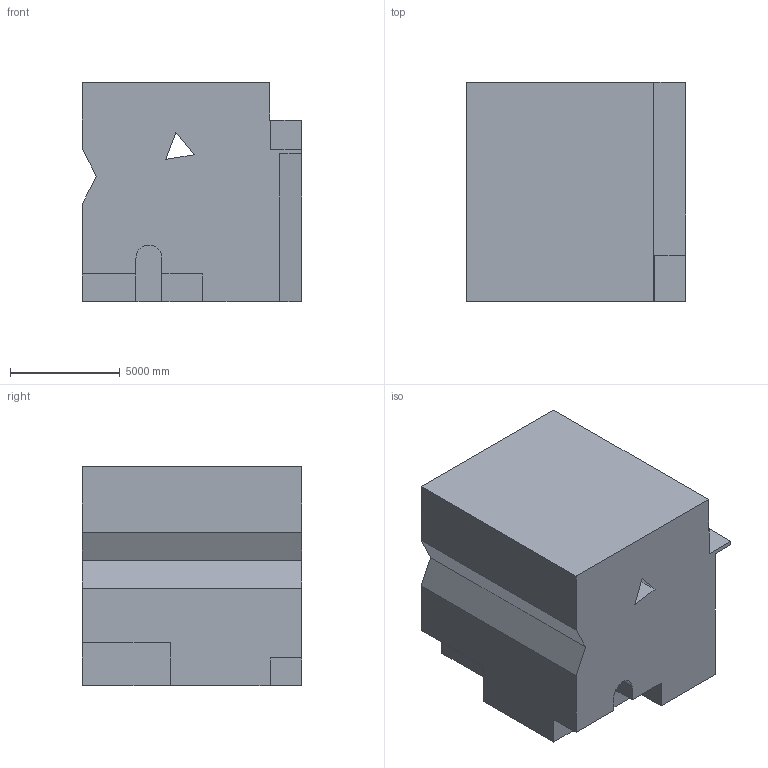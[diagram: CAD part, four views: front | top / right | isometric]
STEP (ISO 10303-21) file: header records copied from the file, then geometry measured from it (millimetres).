
FILE_DESCRIPTION (( 'STEP AP203' ), '1' );
FILE_NAME ('1784.STEP', '2022-08-19T12:51:28', ( 'user' ), ( '' ), 'SwSTEP 2.0', 'SolidWorks 2021', '' );
FILE_SCHEMA (( 'CONFIG_CONTROL_DESIGN' ));
Length unit declared in the file: centimetre
Products named in the file (1): 1784
Bounding box: 10000 x 10000 x 10000 mm (x, y, z)
Volume: 917977467807.9 mm3; surface area: 649039153.6 mm2
Topology: 1 solids, 1 shells, 31 faces, 87 edges, 58 vertices
Faces by surface type: plane 30, cylinder 1
Entity records: 1064 total; most frequent: CARTESIAN_POINT 177, ORIENTED_EDGE 174, DIRECTION 153, EDGE_CURVE 87, LINE 85, VECTOR 85, VERTEX_POINT 58, AXIS2_PLACEMENT_3D 34
